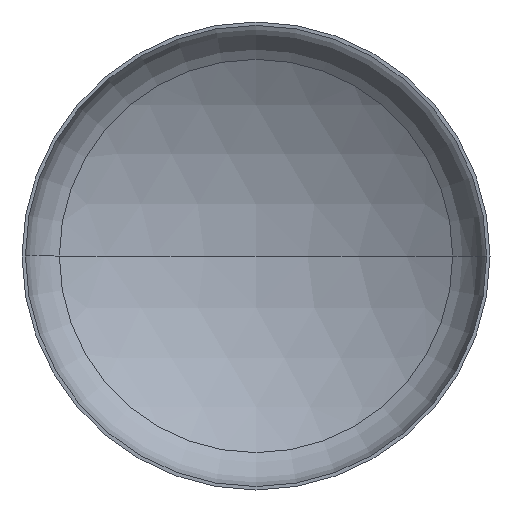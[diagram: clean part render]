
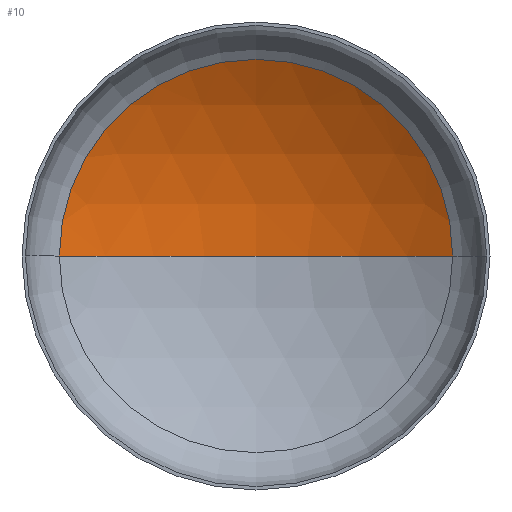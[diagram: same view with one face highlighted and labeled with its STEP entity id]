
A CAD part, front view. The second image highlights one B-rep face of the part: STEP entity #10.
In plain terms, the highlighted spherical face has radius 1520 mm.
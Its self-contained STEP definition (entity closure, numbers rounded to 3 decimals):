
#4 = ORIENTED_EDGE ( 'NONE', *, *, #81, .F. ) ;
#9 = EDGE_LOOP ( 'NONE', ( #4, #133, #118 ) ) ;
#10 = ADVANCED_FACE ( 'NONE', ( #144 ), #364, .F. ) ;
#25 = AXIS2_PLACEMENT_3D ( 'NONE', #200, #293, #143 ) ;
#29 = AXIS2_PLACEMENT_3D ( 'NONE', #219, #214, #217 ) ;
#30 = VERTEX_POINT ( 'NONE', #253 ) ;
#31 = AXIS2_PLACEMENT_3D ( 'NONE', #309, #308, #233 ) ;
#49 = AXIS2_PLACEMENT_3D ( 'NONE', #259, #299, #289 ) ;
#77 = EDGE_CURVE ( 'NONE', #136, #30, #403, .T. ) ;
#79 = EDGE_CURVE ( 'NONE', #113, #136, #281, .T. ) ;
#81 = EDGE_CURVE ( 'NONE', #113, #30, #351, .T. ) ;
#113 = VERTEX_POINT ( 'NONE', #222 ) ;
#118 = ORIENTED_EDGE ( 'NONE', *, *, #77, .T. ) ;
#133 = ORIENTED_EDGE ( 'NONE', *, *, #79, .T. ) ;
#136 = VERTEX_POINT ( 'NONE', #247 ) ;
#143 = DIRECTION ( 'NONE',  ( 1., 0., 0. ) ) ;
#144 = FACE_OUTER_BOUND ( 'NONE', #9, .T. ) ;
#200 = CARTESIAN_POINT ( 'NONE',  ( 0., -1001.701, 0. ) ) ;
#214 = DIRECTION ( 'NONE',  ( 0., 0., -1. ) ) ;
#217 = DIRECTION ( 'NONE',  ( -1., 0., 0. ) ) ;
#219 = CARTESIAN_POINT ( 'NONE',  ( 0., -1001.701, 0. ) ) ;
#222 = CARTESIAN_POINT ( 'NONE',  ( 0., 518.299, 0. ) ) ;
#233 = DIRECTION ( 'NONE',  ( 1., 0., 0. ) ) ;
#247 = CARTESIAN_POINT ( 'NONE',  ( 798.309, 291.783, 0. ) ) ;
#253 = CARTESIAN_POINT ( 'NONE',  ( -798.309, 291.783, 0. ) ) ;
#259 = CARTESIAN_POINT ( 'NONE',  ( 0., -1001.701, 0. ) ) ;
#281 = CIRCLE ( 'NONE', #29, 1520. ) ;
#289 = DIRECTION ( 'NONE',  ( -1., 0., 0. ) ) ;
#293 = DIRECTION ( 'NONE',  ( 0., 0., 1. ) ) ;
#299 = DIRECTION ( 'NONE',  ( 0., 0., -1. ) ) ;
#308 = DIRECTION ( 'NONE',  ( 0., -1., 0. ) ) ;
#309 = CARTESIAN_POINT ( 'NONE',  ( 0., 291.783, 0. ) ) ;
#351 = CIRCLE ( 'NONE', #25, 1520. ) ;
#364 = SPHERICAL_SURFACE ( 'NONE', #49, 1520. ) ;
#403 = CIRCLE ( 'NONE', #31, 798.309 ) ;
